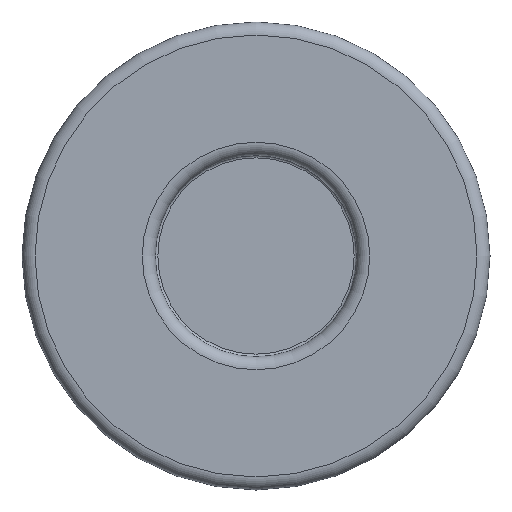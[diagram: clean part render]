
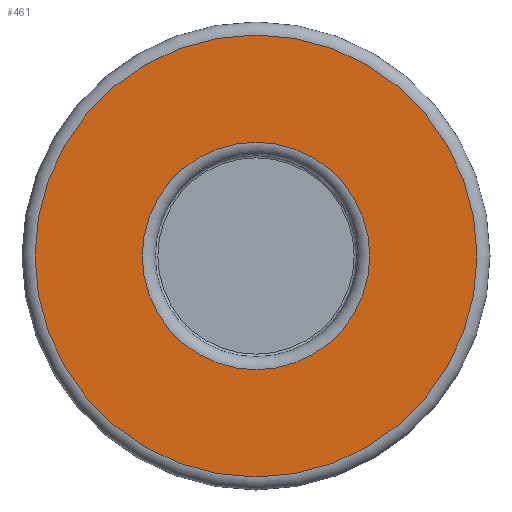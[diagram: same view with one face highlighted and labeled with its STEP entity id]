
A CAD part, left-side view. The second image highlights one B-rep face of the part: STEP entity #461.
In plain terms, the highlighted planar face has unit normal (-1, 0, 0).
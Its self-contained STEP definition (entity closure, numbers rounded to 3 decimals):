
#430=CARTESIAN_POINT('',(0.,8.75,0.));
#431=VERTEX_POINT('',#430);
#432=CARTESIAN_POINT('',(0.,0.,0.0));
#433=DIRECTION('',(-1.0,0.0,0.0));
#434=DIRECTION('',(0.0,-1.0,0.0));
#435=AXIS2_PLACEMENT_3D('',#432,#433,#434);
#436=CIRCLE('',#435,8.75);
#437=EDGE_CURVE('',#431,#431,#436,.T.);
#442=CARTESIAN_POINT('',(0.0,12.875,0.0));
#443=DIRECTION('',(-1.0,0.0,0.0));
#444=DIRECTION('',(0.0,0.0,1.0));
#445=AXIS2_PLACEMENT_3D('',#442,#443,#444);
#446=PLANE('',#445);
#447=CARTESIAN_POINT('',(0.,17.,0.0));
#448=VERTEX_POINT('',#447);
#449=CARTESIAN_POINT('',(0.,0.,0.0));
#450=DIRECTION('',(1.0,0.0,0.0));
#451=DIRECTION('',(0.0,-1.0,0.0));
#452=AXIS2_PLACEMENT_3D('',#449,#450,#451);
#453=CIRCLE('',#452,17.);
#454=EDGE_CURVE('',#448,#448,#453,.T.);
#455=ORIENTED_EDGE('',*,*,#454,.F.);
#456=EDGE_LOOP('',(#455));
#457=FACE_OUTER_BOUND('',#456,.T.);
#458=ORIENTED_EDGE('',*,*,#437,.F.);
#459=EDGE_LOOP('',(#458));
#460=FACE_BOUND('',#459,.T.);
#461=ADVANCED_FACE('',(#457,#460),#446,.T.);
